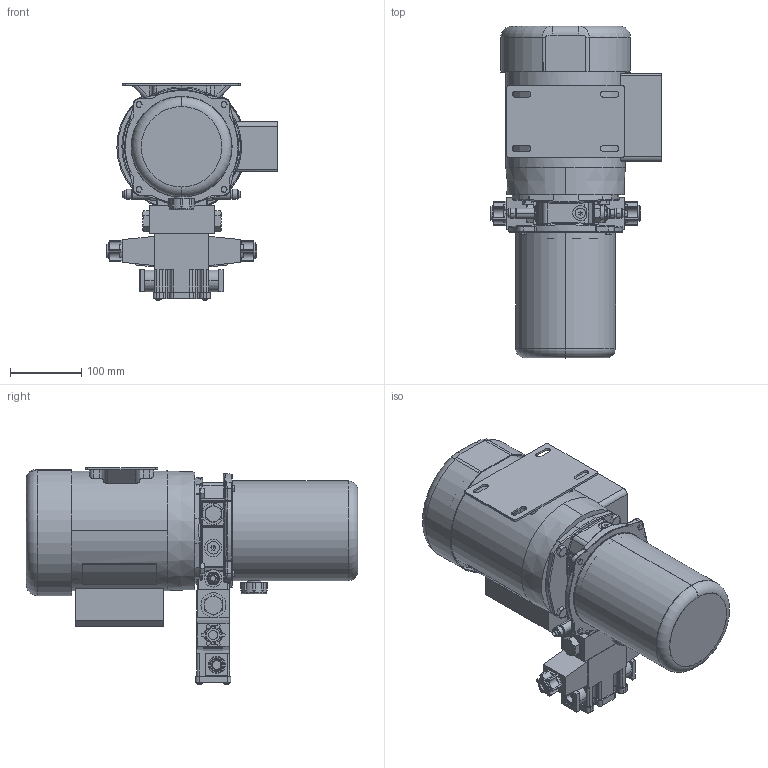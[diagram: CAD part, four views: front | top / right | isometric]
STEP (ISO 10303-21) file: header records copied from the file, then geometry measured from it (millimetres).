
FILE_DESCRIPTION((''),'2;1');
FILE_NAME('644166_ASM_SW0001','2014-08-13T',('DA10877'),('OILDYNE'),'PRO/ENGINEER BY PARAMETRIC TECHNOLOGY CORPORATION, 2009300','PRO/ENGINEER BY PARAMETRIC TECHNOLOGY CORPORATION, 2009300','');
FILE_SCHEMA(('CONFIG_CONTROL_DESIGN'));
Products named in the file (1): 644166_ASM_SW0001
Bounding box: 240.15 x 466.34 x 304.83 mm (x, y, z)
Surface area: 639375 mm2 (no closed solid volume)
Topology: 0 solids, 51 shells, 1504 faces, 4234 edges, 2703 vertices
Faces by surface type: plane 489, cylinder 463, cone 210, bspline 182, torus 80, sphere 80
Entity records: 57934 total; most frequent: CARTESIAN_POINT 21330, ORIENTED_EDGE 7599, DIRECTION 7319, EDGE_CURVE 4150, AXIS2_PLACEMENT_3D 2871, VERTEX_POINT 2703, EDGE_LOOP 1667, VECTOR 1577
